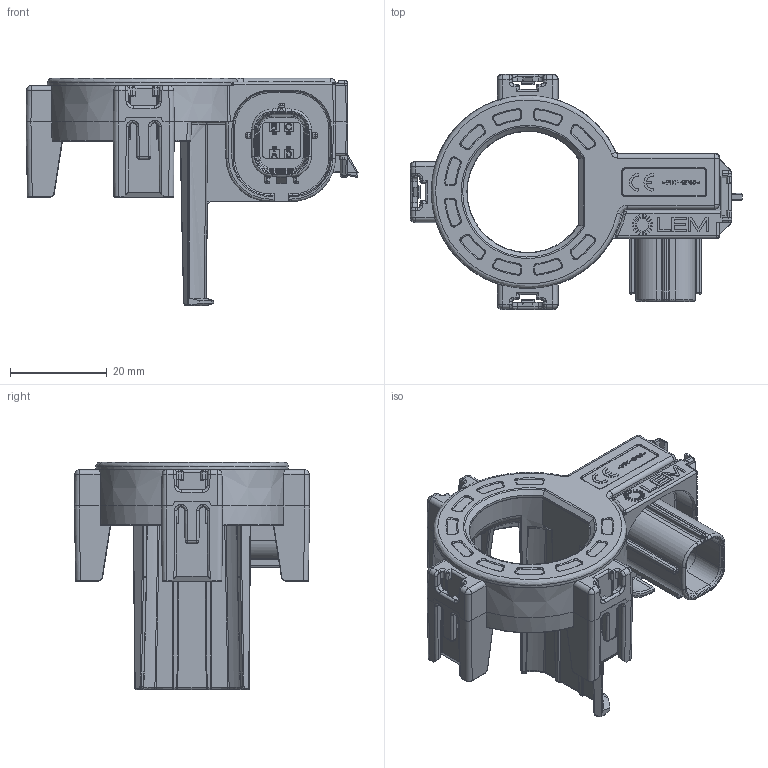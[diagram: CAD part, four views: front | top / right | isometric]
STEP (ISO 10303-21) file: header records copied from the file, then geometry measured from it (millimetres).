
FILE_DESCRIPTION(('Creo Elements/Direct Modeling STEP Export'),'2;1');
FILE_NAME('HABT-SP10_20140402.stp','2018-01-19T11:17:35',(''),(''),'PTC Creo Elements/Direct Modeling STEP processor for AP214 (Solid Model)','PTC Creo Elements/Direct Modeling 19.0B 21-Mar-2015 (C) Parametric Technology GmbH','');
FILE_SCHEMA(('AUTOMOTIVE_DESIGN { 1 0 10303 214 1 1 1 1 }'));
Products named in the file (2): HABT_100V-SP10_BB_20140402
Assembly tree (1 placements, depth 2):
  HABT_100V-SP10_BB_20140402
    HABT_100V-SP10_BB_20140402
Bounding box: 68.52 x 48.59 x 46.9 mm (x, y, z)
Volume: 19913.5 mm3; surface area: 13748 mm2
Topology: 1 solids, 1 shells, 2016 faces, 5312 edges, 3327 vertices
Faces by surface type: plane 1057, cylinder 462, bspline 341, cone 71, torus 62, sphere 23
Entity records: 119029 total; most frequent: CARTESIAN_POINT 72733, ORIENTED_EDGE 10570, DIRECTION 7923, EDGE_CURVE 5285, VECTOR 3393, LINE 3393, VERTEX_POINT 3327, AXIS2_PLACEMENT_3D 2265
